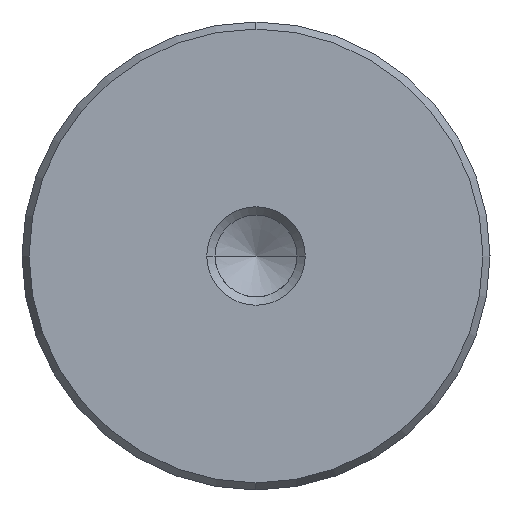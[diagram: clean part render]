
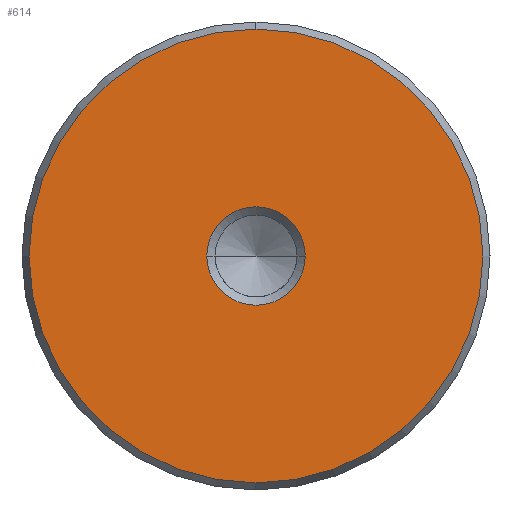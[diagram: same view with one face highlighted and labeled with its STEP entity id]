
A CAD part, left-side view. The second image highlights one B-rep face of the part: STEP entity #614.
In plain terms, the highlighted planar face has unit normal (-1, 0, 0).
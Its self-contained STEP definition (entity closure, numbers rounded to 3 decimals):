
#528=CARTESIAN_POINT('Vertex',(0.,0.,-18.423)) ;
#531=CARTESIAN_POINT('Axis2P3D Location',(0.,0.,0.)) ;
#535=CARTESIAN_POINT('Vertex',(0.,18.423,0.)) ;
#538=CARTESIAN_POINT('Axis2P3D Location',(0.,0.,0.)) ;
#542=CARTESIAN_POINT('Vertex',(0.,0.,18.423)) ;
#564=CARTESIAN_POINT('Axis2P3D Location',(0.,0.,0.)) ;
#568=CARTESIAN_POINT('Vertex',(0.,-18.423,0.)) ;
#571=CARTESIAN_POINT('Axis2P3D Location',(0.,0.,0.)) ;
#585=CARTESIAN_POINT('Axis2P3D Location',(0.,0.,0.)) ;
#596=CARTESIAN_POINT('Axis2P3D Location',(0.,0.,0.)) ;
#600=CARTESIAN_POINT('Vertex',(0.,4.,0.)) ;
#602=CARTESIAN_POINT('Vertex',(0.,-4.,0.)) ;
#605=CARTESIAN_POINT('Axis2P3D Location',(0.,0.,0.)) ;
#532=DIRECTION('Axis2P3D Direction',(1.,0.,-0.)) ;
#539=DIRECTION('Axis2P3D Direction',(1.,0.,-0.)) ;
#565=DIRECTION('Axis2P3D Direction',(1.,0.,-0.)) ;
#572=DIRECTION('Axis2P3D Direction',(1.,0.,-0.)) ;
#586=DIRECTION('Axis2P3D Direction',(1.,0.,-0.)) ;
#587=DIRECTION('Axis2P3D XDirection',(-0.,0.,-1.)) ;
#597=DIRECTION('Axis2P3D Direction',(1.,0.,-0.)) ;
#606=DIRECTION('Axis2P3D Direction',(1.,0.,-0.)) ;
#533=AXIS2_PLACEMENT_3D('Circle Axis2P3D',#531,#532,$) ;
#540=AXIS2_PLACEMENT_3D('Circle Axis2P3D',#538,#539,$) ;
#566=AXIS2_PLACEMENT_3D('Circle Axis2P3D',#564,#565,$) ;
#573=AXIS2_PLACEMENT_3D('Circle Axis2P3D',#571,#572,$) ;
#588=AXIS2_PLACEMENT_3D('Plane Axis2P3D',#585,#586,#587) ;
#598=AXIS2_PLACEMENT_3D('Circle Axis2P3D',#596,#597,$) ;
#607=AXIS2_PLACEMENT_3D('Circle Axis2P3D',#605,#606,$) ;
#591=ORIENTED_EDGE('',*,*,#537,.F.) ;
#592=ORIENTED_EDGE('',*,*,#575,.F.) ;
#593=ORIENTED_EDGE('',*,*,#570,.F.) ;
#594=ORIENTED_EDGE('',*,*,#544,.F.) ;
#611=ORIENTED_EDGE('',*,*,#604,.T.) ;
#612=ORIENTED_EDGE('',*,*,#609,.T.) ;
#613=FACE_BOUND('',#610,.T.) ;
#614=ADVANCED_FACE('720-38x200',(#595,#613),#589,.F.) ;
#534=CIRCLE('generated circle',#533,18.423) ;
#541=CIRCLE('generated circle',#540,18.423) ;
#567=CIRCLE('generated circle',#566,18.423) ;
#574=CIRCLE('generated circle',#573,18.423) ;
#599=CIRCLE('generated circle',#598,4.) ;
#608=CIRCLE('generated circle',#607,4.) ;
#537=EDGE_CURVE('',#529,#536,#534,.T.) ;
#544=EDGE_CURVE('',#536,#543,#541,.T.) ;
#570=EDGE_CURVE('',#543,#569,#567,.T.) ;
#575=EDGE_CURVE('',#569,#529,#574,.T.) ;
#604=EDGE_CURVE('',#601,#603,#599,.T.) ;
#609=EDGE_CURVE('',#603,#601,#608,.T.) ;
#590=EDGE_LOOP('',(#591,#592,#593,#594)) ;
#610=EDGE_LOOP('',(#611,#612)) ;
#595=FACE_OUTER_BOUND('',#590,.T.) ;
#589=PLANE('Plane',#588) ;
#529=VERTEX_POINT('',#528) ;
#536=VERTEX_POINT('',#535) ;
#543=VERTEX_POINT('',#542) ;
#569=VERTEX_POINT('',#568) ;
#601=VERTEX_POINT('',#600) ;
#603=VERTEX_POINT('',#602) ;
